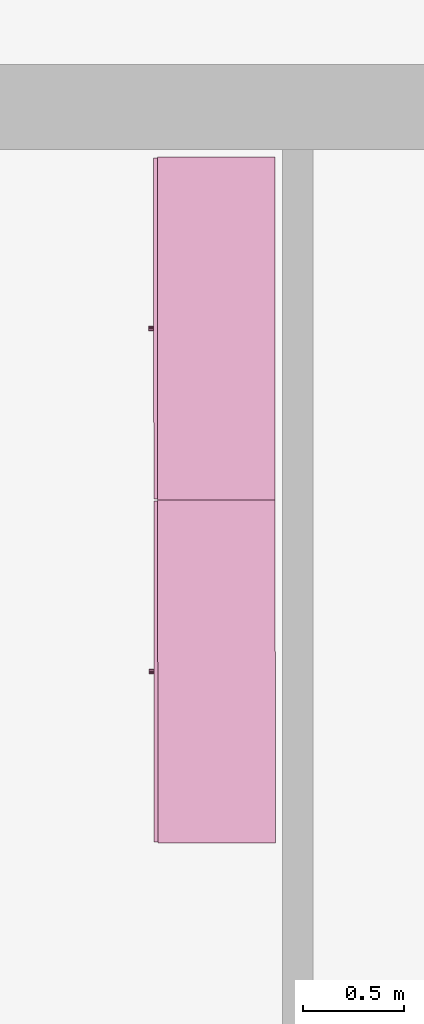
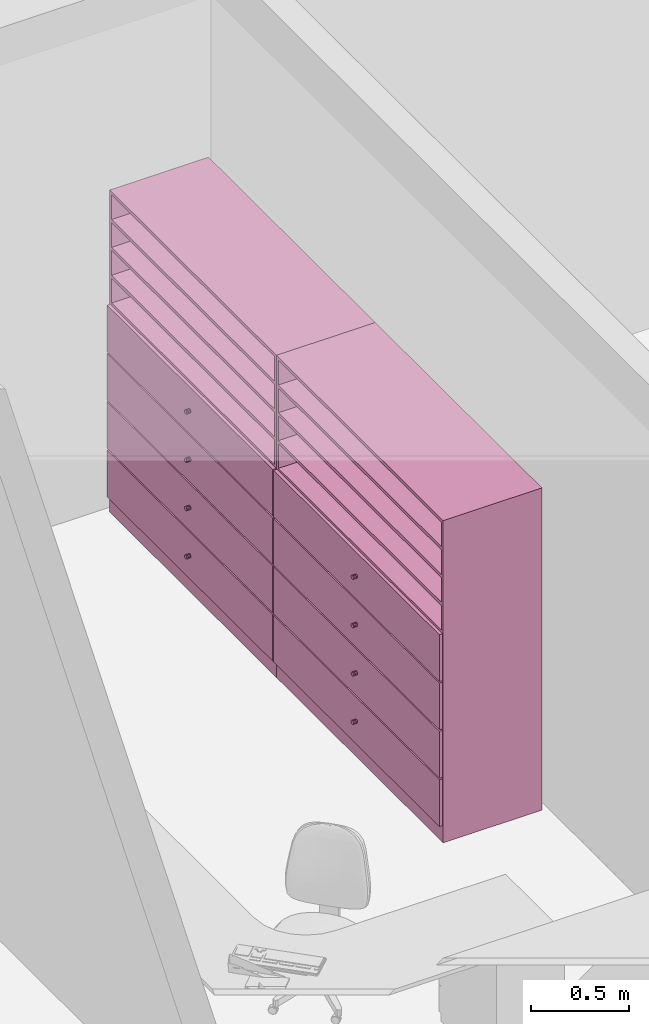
# One storey, part 141 of 194: 2 furnishings.
"""IFC2X3 building model written with IfcOpenShell, lengths in millimetres."""

from ifc_helpers import new_model, entity, si_unit, converted_unit, derived_unit, money_unit, direction, frame, origin_with_axes, place, context, subcontext, project, spatial, faceted_brep, source, transform, mapped, type_object, element, save


model = new_model("IFC2X3")

# Units and contexts
model_context = context("Model", 3, precision=1e-05, world=origin_with_axes(), true_north=direction((0.0, 1.0)))
body_context = subcontext(model_context, "Body", "Model", "MODEL_VIEW")
ifc_project = project(units=[si_unit("LENGTHUNIT", "METRE", prefix="MILLI"), si_unit("AREAUNIT", "SQUARE_METRE"), si_unit("VOLUMEUNIT", "CUBIC_METRE"), converted_unit("PLANEANGLEUNIT", "DEGREE", entity("IfcPlaneAngleMeasure", 0.0174532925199), si_unit("PLANEANGLEUNIT", "RADIAN"), dimensions=[0, 0, 0, 0, 0, 0, 0]), si_unit("SOLIDANGLEUNIT", "STERADIAN"), money_unit("EUR"), converted_unit("TIMEUNIT", "Year", entity("IfcTimeMeasure", 31556926.0), si_unit("TIMEUNIT", "SECOND"), dimensions=[0, 0, 1, 0, 0, 0, 0]), si_unit("MASSUNIT", "GRAM", prefix="KILO"), si_unit("THERMODYNAMICTEMPERATUREUNIT", "DEGREE_CELSIUS"), si_unit("LUMINOUSINTENSITYUNIT", "LUMEN"), si_unit("ENERGYUNIT", "JOULE", prefix="MEGA"), derived_unit("THERMALCONDUCTANCEUNIT", [(si_unit("POWERUNIT", "WATT"), 1), (si_unit("LENGTHUNIT", "METRE"), -1), (si_unit("THERMODYNAMICTEMPERATUREUNIT", "KELVIN"), -1)]), derived_unit("SPECIFICHEATCAPACITYUNIT", [(si_unit("ENERGYUNIT", "JOULE"), 1), (si_unit("MASSUNIT", "GRAM", prefix="KILO"), -1), (si_unit("THERMODYNAMICTEMPERATUREUNIT", "KELVIN"), -1)]), derived_unit("MASSDENSITYUNIT", [(si_unit("MASSUNIT", "GRAM", prefix="KILO"), 1), (si_unit("VOLUMEUNIT", "CUBIC_METRE"), -1)])], contexts=[model_context])

# Site, building, storey
site_placement = place(None, origin_with_axes())
site = spatial("IfcSite", under=ifc_project, at=site_placement, Name="Site", CompositionType="ELEMENT")
building_placement = place(site_placement, origin_with_axes())
building = spatial("IfcBuilding", under=site, at=building_placement, Name="Building", CompositionType="ELEMENT")
storey_placement = place(building_placement, frame((0.0, 0.0, 3000.0), z_axis=(0.0, 0.0, 1.0), x_axis=(1.0, 0.0, 0.0)))
storey = spatial("IfcBuildingStorey", under=building, at=storey_placement, Name="2 KORRUS", CompositionType="ELEMENT", Elevation=3000.0)

# Furnishings
furnishing_element_type = type_object("IfcFurnishingElementType", Name="Model Element 129")
shared_shape = source(origin_with_axes(), body_context, "Body", "Brep", [
    faceted_brep([(-1693.4828307, 19.0, 0.0), (-1693.4828307, 599.467164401, 0.0), (0.0, 599.467164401, 0.0), (0.0, 19.0, 0.0), (-1693.4828307, 19.0, 100.0), (-1693.4828307, 599.467164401, 100.0), (0.0, 599.467164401, 100.0), (0.0, 19.0, 100.0)], [[[0, 1, 2, 3]], [[0, 4, 5, 1]], [[1, 5, 6, 2]], [[2, 6, 7, 3]], [[3, 7, 4, 0]], [[7, 6, 5, 4]]]),
    faceted_brep([(-19.0, 599.467164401, 119.0), (-19.0, 599.467164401, 1981.0), (-19.0, 580.467164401, 1981.0), (-19.0, 580.467164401, 119.0), (-1674.4828307, 599.467164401, 119.0), (-1674.4828307, 599.467164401, 1981.0), (-1674.4828307, 580.467164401, 1981.0), (-1674.4828307, 580.467164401, 119.0)], [[[0, 1, 2, 3]], [[4, 5, 1, 0]], [[1, 5, 6, 2]], [[3, 2, 6, 7]], [[0, 3, 7, 4]], [[7, 6, 5, 4]]]),
    faceted_brep([(-1693.4828307, 19.0, 100.0), (-1693.4828307, 599.467164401, 100.0), (-1674.4828307, 599.467164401, 100.0), (-1674.4828307, 19.0, 100.0), (-1693.4828307, 19.0, 2000.0), (-1693.4828307, 599.467164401, 2000.0), (-1674.4828307, 599.467164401, 2000.0), (-1674.4828307, 19.0, 2000.0)], [[[0, 1, 2, 3]], [[0, 4, 5, 1]], [[1, 5, 6, 2]], [[2, 6, 7, 3]], [[3, 7, 4, 0]], [[7, 6, 5, 4]]]),
    faceted_brep([(-19.0, 19.0, 100.0), (-19.0, 599.467164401, 100.0), (0.0, 599.467164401, 100.0), (0.0, 19.0, 100.0), (-19.0, 19.0, 2000.0), (-19.0, 599.467164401, 2000.0), (0.0, 599.467164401, 2000.0), (0.0, 19.0, 2000.0)], [[[0, 1, 2, 3]], [[0, 4, 5, 1]], [[1, 5, 6, 2]], [[2, 6, 7, 3]], [[3, 7, 4, 0]], [[7, 6, 5, 4]]]),
    faceted_brep([(-1674.4828307, 19.0, 100.0), (-1674.4828307, 599.467164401, 100.0), (-19.0, 599.467164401, 100.0), (-19.0, 19.0, 100.0), (-1674.4828307, 19.0, 119.0), (-1674.4828307, 599.467164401, 119.0), (-19.0, 599.467164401, 119.0), (-19.0, 19.0, 119.0)], [[[0, 1, 2, 3]], [[0, 4, 5, 1]], [[1, 5, 6, 2]], [[2, 6, 7, 3]], [[3, 7, 4, 0]], [[7, 6, 5, 4]]]),
    faceted_brep([(-1674.4828307, 19.0, 1981.0), (-1674.4828307, 599.467164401, 1981.0), (-19.0, 599.467164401, 1981.0), (-19.0, 19.0, 1981.0), (-1674.4828307, 19.0, 2000.0), (-1674.4828307, 599.467164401, 2000.0), (-19.0, 599.467164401, 2000.0), (-19.0, 19.0, 2000.0)], [[[0, 1, 2, 3]], [[0, 4, 5, 1]], [[1, 5, 6, 2]], [[2, 6, 7, 3]], [[3, 7, 4, 0]], [[7, 6, 5, 4]]]),
    faceted_brep([(-5.0, 19.0, 105.0), (-5.0, 0.0, 105.0), (-1688.4828307, 0.0, 105.0), (-1688.4828307, 19.0, 105.0), (-5.0, 19.0, 395.0), (-5.0, 0.0, 395.0), (-1688.4828307, 0.0, 395.0), (-1688.4828307, 19.0, 395.0)], [[[0, 1, 2, 3]], [[4, 5, 1, 0]], [[1, 5, 6, 2]], [[3, 2, 6, 7]], [[0, 3, 7, 4]], [[7, 6, 5, 4]]]),
    faceted_brep([(-857.133720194, 0.0, 244.0), (-858.741415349, 0.0, 250.0), (-857.133720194, 0.0, 256.0), (-852.741415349, 0.0, 260.392304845), (-846.741415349, 0.0, 262.0), (-840.741415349, 0.0, 260.392304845), (-836.349110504, 0.0, 256.0), (-834.741415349, 0.0, 250.0), (-836.349110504, 0.0, 244.0), (-840.741415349, 0.0, 239.607695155), (-846.741415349, 0.0, 238.0), (-852.741415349, 0.0, 239.607695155), (-857.133720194, -25.0, 244.0), (-858.741415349, -25.0, 250.0), (-857.133720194, -25.0, 256.0), (-852.741415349, -25.0, 260.392304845), (-846.741415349, -25.0, 262.0), (-840.741415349, -25.0, 260.392304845), (-836.349110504, -25.0, 256.0), (-834.741415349, -25.0, 250.0), (-836.349110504, -25.0, 244.0), (-840.741415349, -25.0, 239.607695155), (-846.741415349, -25.0, 238.0), (-852.741415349, -25.0, 239.607695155)], [[[0, 1, 2, 3, 4, 5, 6, 7, 8, 9, 10, 11]], [[0, 12, 13, 1]], [[1, 13, 14, 2]], [[2, 14, 15, 3]], [[3, 15, 16, 4]], [[4, 16, 17, 5]], [[5, 17, 18, 6]], [[6, 18, 19, 7]], [[7, 19, 20, 8]], [[8, 20, 21, 9]], [[9, 21, 22, 10]], [[10, 22, 23, 11]], [[11, 23, 12, 0]], [[12, 23, 22, 21, 20, 19, 18, 17, 16, 15, 14, 13]]]),
    faceted_brep([(-5.0, 19.0, 405.0), (-5.0, 0.0, 405.0), (-1688.4828307, 0.0, 405.0), (-1688.4828307, 19.0, 405.0), (-5.0, 19.0, 695.0), (-5.0, 0.0, 695.0), (-1688.4828307, 0.0, 695.0), (-1688.4828307, 19.0, 695.0)], [[[0, 1, 2, 3]], [[4, 5, 1, 0]], [[1, 5, 6, 2]], [[3, 2, 6, 7]], [[0, 3, 7, 4]], [[7, 6, 5, 4]]]),
    faceted_brep([(-857.133720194, 0.0, 544.0), (-858.741415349, 0.0, 550.0), (-857.133720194, 0.0, 556.0), (-852.741415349, 0.0, 560.392304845), (-846.741415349, 0.0, 562.0), (-840.741415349, 0.0, 560.392304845), (-836.349110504, 0.0, 556.0), (-834.741415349, 0.0, 550.0), (-836.349110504, 0.0, 544.0), (-840.741415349, 0.0, 539.607695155), (-846.741415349, 0.0, 538.0), (-852.741415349, 0.0, 539.607695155), (-857.133720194, -25.0, 544.0), (-858.741415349, -25.0, 550.0), (-857.133720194, -25.0, 556.0), (-852.741415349, -25.0, 560.392304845), (-846.741415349, -25.0, 562.0), (-840.741415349, -25.0, 560.392304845), (-836.349110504, -25.0, 556.0), (-834.741415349, -25.0, 550.0), (-836.349110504, -25.0, 544.0), (-840.741415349, -25.0, 539.607695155), (-846.741415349, -25.0, 538.0), (-852.741415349, -25.0, 539.607695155)], [[[0, 1, 2, 3, 4, 5, 6, 7, 8, 9, 10, 11]], [[0, 12, 13, 1]], [[1, 13, 14, 2]], [[2, 14, 15, 3]], [[3, 15, 16, 4]], [[4, 16, 17, 5]], [[5, 17, 18, 6]], [[6, 18, 19, 7]], [[7, 19, 20, 8]], [[8, 20, 21, 9]], [[9, 21, 22, 10]], [[10, 22, 23, 11]], [[11, 23, 12, 0]], [[12, 23, 22, 21, 20, 19, 18, 17, 16, 15, 14, 13]]]),
    faceted_brep([(-5.0, 19.0, 705.0), (-5.0, 0.0, 705.0), (-1688.4828307, 0.0, 705.0), (-1688.4828307, 19.0, 705.0), (-5.0, 19.0, 995.0), (-5.0, 0.0, 995.0), (-1688.4828307, 0.0, 995.0), (-1688.4828307, 19.0, 995.0)], [[[0, 1, 2, 3]], [[4, 5, 1, 0]], [[1, 5, 6, 2]], [[3, 2, 6, 7]], [[0, 3, 7, 4]], [[7, 6, 5, 4]]]),
    faceted_brep([(-857.133720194, 0.0, 844.0), (-858.741415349, 0.0, 850.0), (-857.133720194, 0.0, 856.0), (-852.741415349, 0.0, 860.392304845), (-846.741415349, 0.0, 862.0), (-840.741415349, 0.0, 860.392304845), (-836.349110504, 0.0, 856.0), (-834.741415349, 0.0, 850.0), (-836.349110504, 0.0, 844.0), (-840.741415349, 0.0, 839.607695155), (-846.741415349, 0.0, 838.0), (-852.741415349, 0.0, 839.607695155), (-857.133720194, -25.0, 844.0), (-858.741415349, -25.0, 850.0), (-857.133720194, -25.0, 856.0), (-852.741415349, -25.0, 860.392304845), (-846.741415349, -25.0, 862.0), (-840.741415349, -25.0, 860.392304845), (-836.349110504, -25.0, 856.0), (-834.741415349, -25.0, 850.0), (-836.349110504, -25.0, 844.0), (-840.741415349, -25.0, 839.607695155), (-846.741415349, -25.0, 838.0), (-852.741415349, -25.0, 839.607695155)], [[[0, 1, 2, 3, 4, 5, 6, 7, 8, 9, 10, 11]], [[0, 12, 13, 1]], [[1, 13, 14, 2]], [[2, 14, 15, 3]], [[3, 15, 16, 4]], [[4, 16, 17, 5]], [[5, 17, 18, 6]], [[6, 18, 19, 7]], [[7, 19, 20, 8]], [[8, 20, 21, 9]], [[9, 21, 22, 10]], [[10, 22, 23, 11]], [[11, 23, 12, 0]], [[12, 23, 22, 21, 20, 19, 18, 17, 16, 15, 14, 13]]]),
    faceted_brep([(-5.0, 19.0, 1005.0), (-5.0, 0.0, 1005.0), (-1688.4828307, 0.0, 1005.0), (-1688.4828307, 19.0, 1005.0), (-5.0, 19.0, 1295.0), (-5.0, 0.0, 1295.0), (-1688.4828307, 0.0, 1295.0), (-1688.4828307, 19.0, 1295.0)], [[[0, 1, 2, 3]], [[4, 5, 1, 0]], [[1, 5, 6, 2]], [[3, 2, 6, 7]], [[0, 3, 7, 4]], [[7, 6, 5, 4]]]),
    faceted_brep([(-857.133720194, 0.0, 1144.0), (-858.741415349, 0.0, 1150.0), (-857.133720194, 0.0, 1156.0), (-852.741415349, 0.0, 1160.39230485), (-846.741415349, 0.0, 1162.0), (-840.741415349, 0.0, 1160.39230485), (-836.349110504, 0.0, 1156.0), (-834.741415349, 0.0, 1150.0), (-836.349110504, 0.0, 1144.0), (-840.741415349, 0.0, 1139.60769515), (-846.741415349, 0.0, 1138.0), (-852.741415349, 0.0, 1139.60769515), (-857.133720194, -25.0, 1144.0), (-858.741415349, -25.0, 1150.0), (-857.133720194, -25.0, 1156.0), (-852.741415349, -25.0, 1160.39230485), (-846.741415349, -25.0, 1162.0), (-840.741415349, -25.0, 1160.39230485), (-836.349110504, -25.0, 1156.0), (-834.741415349, -25.0, 1150.0), (-836.349110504, -25.0, 1144.0), (-840.741415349, -25.0, 1139.60769515), (-846.741415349, -25.0, 1138.0), (-852.741415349, -25.0, 1139.60769515)], [[[0, 1, 2, 3, 4, 5, 6, 7, 8, 9, 10, 11]], [[0, 12, 13, 1]], [[1, 13, 14, 2]], [[2, 14, 15, 3]], [[3, 15, 16, 4]], [[4, 16, 17, 5]], [[5, 17, 18, 6]], [[6, 18, 19, 7]], [[7, 19, 20, 8]], [[8, 20, 21, 9]], [[9, 21, 22, 10]], [[10, 22, 23, 11]], [[11, 23, 12, 0]], [[12, 23, 22, 21, 20, 19, 18, 17, 16, 15, 14, 13]]]),
    faceted_brep([(-19.0, 19.0, 390.5), (-19.0, 19.0, 409.5), (-1674.4828307, 19.0, 409.5), (-1674.4828307, 19.0, 390.5), (-19.0, 580.467164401, 390.5), (-19.0, 580.467164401, 409.5), (-1674.4828307, 580.467164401, 409.5), (-1674.4828307, 580.467164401, 390.5)], [[[0, 1, 2, 3]], [[4, 5, 1, 0]], [[1, 5, 6, 2]], [[3, 2, 6, 7]], [[0, 3, 7, 4]], [[7, 6, 5, 4]]]),
    faceted_brep([(-19.0, 19.0, 690.5), (-19.0, 19.0, 709.5), (-1674.4828307, 19.0, 709.5), (-1674.4828307, 19.0, 690.5), (-19.0, 580.467164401, 690.5), (-19.0, 580.467164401, 709.5), (-1674.4828307, 580.467164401, 709.5), (-1674.4828307, 580.467164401, 690.5)], [[[0, 1, 2, 3]], [[4, 5, 1, 0]], [[1, 5, 6, 2]], [[3, 2, 6, 7]], [[0, 3, 7, 4]], [[7, 6, 5, 4]]]),
    faceted_brep([(-19.0, 19.0, 990.5), (-19.0, 19.0, 1009.5), (-1674.4828307, 19.0, 1009.5), (-1674.4828307, 19.0, 990.5), (-19.0, 580.467164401, 990.5), (-19.0, 580.467164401, 1009.5), (-1674.4828307, 580.467164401, 1009.5), (-1674.4828307, 580.467164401, 990.5)], [[[0, 1, 2, 3]], [[4, 5, 1, 0]], [[1, 5, 6, 2]], [[3, 2, 6, 7]], [[0, 3, 7, 4]], [[7, 6, 5, 4]]]),
    faceted_brep([(-19.0, 19.0, 1290.5), (-19.0, 19.0, 1309.5), (-1674.4828307, 19.0, 1309.5), (-1674.4828307, 19.0, 1290.5), (-19.0, 580.467164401, 1290.5), (-19.0, 580.467164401, 1309.5), (-1674.4828307, 580.467164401, 1309.5), (-1674.4828307, 580.467164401, 1290.5)], [[[0, 1, 2, 3]], [[4, 5, 1, 0]], [[1, 5, 6, 2]], [[3, 2, 6, 7]], [[0, 3, 7, 4]], [[7, 6, 5, 4]]]),
    faceted_brep([(-1674.4828307, 19.0, 1463.125), (-1674.4828307, 580.467164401, 1463.125), (-19.0, 580.467164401, 1463.125), (-19.0, 19.0, 1463.125), (-1674.4828307, 19.0, 1482.125), (-1674.4828307, 580.467164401, 1482.125), (-19.0, 580.467164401, 1482.125), (-19.0, 19.0, 1482.125)], [[[0, 1, 2, 3]], [[0, 4, 5, 1]], [[1, 5, 6, 2]], [[2, 6, 7, 3]], [[3, 7, 4, 0]], [[7, 6, 5, 4]]]),
    faceted_brep([(-1674.4828307, 19.0, 1635.75), (-1674.4828307, 580.467164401, 1635.75), (-19.0, 580.467164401, 1635.75), (-19.0, 19.0, 1635.75), (-1674.4828307, 19.0, 1654.75), (-1674.4828307, 580.467164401, 1654.75), (-19.0, 580.467164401, 1654.75), (-19.0, 19.0, 1654.75)], [[[0, 1, 2, 3]], [[0, 4, 5, 1]], [[1, 5, 6, 2]], [[2, 6, 7, 3]], [[3, 7, 4, 0]], [[7, 6, 5, 4]]]),
    faceted_brep([(-1674.4828307, 19.0, 1808.375), (-1674.4828307, 580.467164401, 1808.375), (-19.0, 580.467164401, 1808.375), (-19.0, 19.0, 1808.375), (-1674.4828307, 19.0, 1827.375), (-1674.4828307, 580.467164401, 1827.375), (-19.0, 580.467164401, 1827.375), (-19.0, 19.0, 1827.375)], [[[0, 1, 2, 3]], [[0, 4, 5, 1]], [[1, 5, 6, 2]], [[2, 6, 7, 3]], [[3, 7, 4, 0]], [[7, 6, 5, 4]]]),
])
for number, where, z_axis, x_axis, name in (
    (1, (93372.8638471, 37158.3291655, 0.0), (0.0, 0.0, 1.0), (0.00064265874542, -0.999999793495, 0.0), "FU - 001"),
    (2, (93371.7755156, 38851.8116469, 0.0), (0.0, 0.0, 1.0), (0.00064265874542, -0.999999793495, 0.0), "FU - 001"),
):
    element("IfcFurnishingElement", number, at=place(storey_placement, frame(where, z_axis=z_axis, x_axis=x_axis)), inside=storey, type_object=furnishing_element_type, Name=name, context=body_context, shape_type="MappedRepresentation", body=[
        mapped(shared_shape, transform((0.0, 0.0, 0.0))),
    ])

save(model, "model.ifc")
